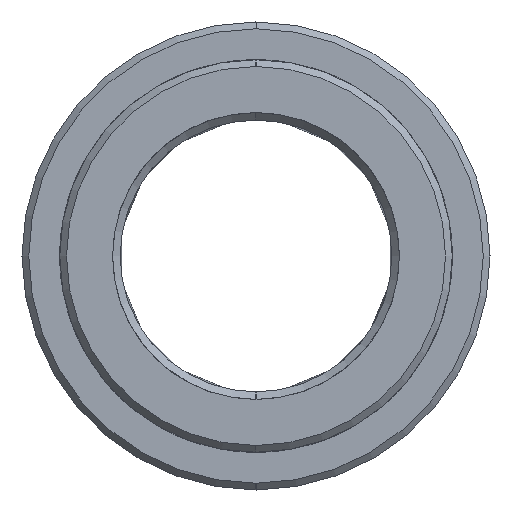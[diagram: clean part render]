
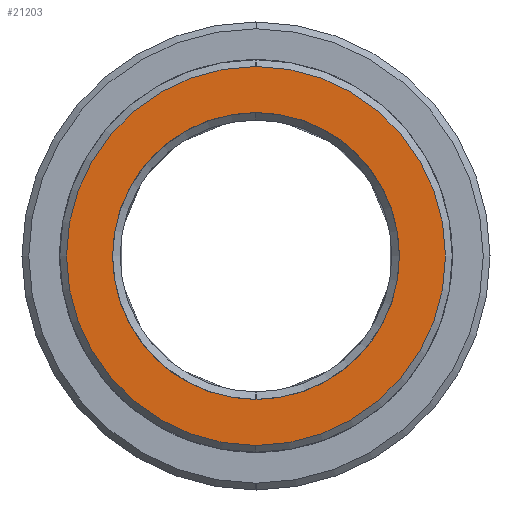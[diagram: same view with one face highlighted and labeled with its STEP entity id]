
A CAD part, left-side view. The second image highlights one B-rep face of the part: STEP entity #21203.
In plain terms, the highlighted planar face has unit normal (1, 0, 0).
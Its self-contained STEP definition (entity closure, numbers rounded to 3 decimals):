
#21120=CARTESIAN_POINT('Axis2P3D Location',(-17.,0.,0.)) ;
#21125=CARTESIAN_POINT('Axis2P3D Location',(-17.,0.,0.)) ;
#21129=CARTESIAN_POINT('Vertex',(-17.,0.,12.55)) ;
#21131=CARTESIAN_POINT('Vertex',(-17.,0.,-12.55)) ;
#21134=CARTESIAN_POINT('Axis2P3D Location',(-17.,0.,0.)) ;
#21144=CARTESIAN_POINT('Control Point',(-17.,0.,9.5)) ;
#21145=CARTESIAN_POINT('Control Point',(-17.,0.906,9.5)) ;
#21146=CARTESIAN_POINT('Control Point',(-17.,1.812,9.392)) ;
#21147=CARTESIAN_POINT('Control Point',(-17.,2.701,9.176)) ;
#21148=CARTESIAN_POINT('Control Point',(-17.,4.41,8.536)) ;
#21149=CARTESIAN_POINT('Control Point',(-17.,5.92,7.513)) ;
#21150=CARTESIAN_POINT('Control Point',(-17.,6.611,6.913)) ;
#21151=CARTESIAN_POINT('Control Point',(-17.,7.836,5.56)) ;
#21152=CARTESIAN_POINT('Control Point',(-17.,8.708,3.957)) ;
#21153=CARTESIAN_POINT('Control Point',(-17.,9.046,3.108)) ;
#21154=CARTESIAN_POINT('Control Point',(-17.,9.514,1.344)) ;
#21155=CARTESIAN_POINT('Control Point',(-17.,9.553,-0.481)) ;
#21156=CARTESIAN_POINT('Control Point',(-17.,9.463,-1.391)) ;
#21157=CARTESIAN_POINT('Control Point',(-17.,9.069,-3.173)) ;
#21158=CARTESIAN_POINT('Control Point',(-17.,8.267,-4.812)) ;
#21159=CARTESIAN_POINT('Control Point',(-17.,7.769,-5.579)) ;
#21160=CARTESIAN_POINT('Control Point',(-17.,6.601,-6.981)) ;
#21161=CARTESIAN_POINT('Control Point',(-17.,5.136,-8.069)) ;
#21162=CARTESIAN_POINT('Control Point',(-17.,4.342,-8.523)) ;
#21163=CARTESIAN_POINT('Control Point',(-17.,3.007,-9.086)) ;
#21164=CARTESIAN_POINT('Control Point',(-17.,1.596,-9.388)) ;
#21165=CARTESIAN_POINT('Control Point',(-17.,1.066,-9.463)) ;
#21166=CARTESIAN_POINT('Control Point',(-17.,0.533,-9.5)) ;
#21167=CARTESIAN_POINT('Control Point',(-17.,0.,-9.5)) ;
#21168=CARTESIAN_POINT('Vertex',(-17.,0.,9.5)) ;
#21170=CARTESIAN_POINT('Vertex',(-17.,0.,-9.5)) ;
#21174=CARTESIAN_POINT('Control Point',(-17.,0.,-9.5)) ;
#21175=CARTESIAN_POINT('Control Point',(-17.,-0.906,-9.5)) ;
#21176=CARTESIAN_POINT('Control Point',(-17.,-1.812,-9.392)) ;
#21177=CARTESIAN_POINT('Control Point',(-17.,-2.701,-9.176)) ;
#21178=CARTESIAN_POINT('Control Point',(-17.,-4.41,-8.536)) ;
#21179=CARTESIAN_POINT('Control Point',(-17.,-5.92,-7.513)) ;
#21180=CARTESIAN_POINT('Control Point',(-17.,-6.611,-6.913)) ;
#21181=CARTESIAN_POINT('Control Point',(-17.,-7.836,-5.56)) ;
#21182=CARTESIAN_POINT('Control Point',(-17.,-8.708,-3.957)) ;
#21183=CARTESIAN_POINT('Control Point',(-17.,-9.046,-3.108)) ;
#21184=CARTESIAN_POINT('Control Point',(-17.,-9.514,-1.344)) ;
#21185=CARTESIAN_POINT('Control Point',(-17.,-9.553,0.481)) ;
#21186=CARTESIAN_POINT('Control Point',(-17.,-9.463,1.391)) ;
#21187=CARTESIAN_POINT('Control Point',(-17.,-9.069,3.173)) ;
#21188=CARTESIAN_POINT('Control Point',(-17.,-8.267,4.812)) ;
#21189=CARTESIAN_POINT('Control Point',(-17.,-7.769,5.579)) ;
#21190=CARTESIAN_POINT('Control Point',(-17.,-6.601,6.981)) ;
#21191=CARTESIAN_POINT('Control Point',(-17.,-5.136,8.069)) ;
#21192=CARTESIAN_POINT('Control Point',(-17.,-4.342,8.523)) ;
#21193=CARTESIAN_POINT('Control Point',(-17.,-3.007,9.086)) ;
#21194=CARTESIAN_POINT('Control Point',(-17.,-1.596,9.388)) ;
#21195=CARTESIAN_POINT('Control Point',(-17.,-1.066,9.463)) ;
#21196=CARTESIAN_POINT('Control Point',(-17.,-0.533,9.5)) ;
#21197=CARTESIAN_POINT('Control Point',(-17.,0.,9.5)) ;
#21121=DIRECTION('Axis2P3D Direction',(1.,0.,0.)) ;
#21122=DIRECTION('Axis2P3D XDirection',(0.,1.,0.)) ;
#21126=DIRECTION('Axis2P3D Direction',(1.,0.,0.)) ;
#21135=DIRECTION('Axis2P3D Direction',(1.,0.,0.)) ;
#21123=AXIS2_PLACEMENT_3D('Plane Axis2P3D',#21120,#21121,#21122) ;
#21127=AXIS2_PLACEMENT_3D('Circle Axis2P3D',#21125,#21126,$) ;
#21136=AXIS2_PLACEMENT_3D('Circle Axis2P3D',#21134,#21135,$) ;
#21140=ORIENTED_EDGE('',*,*,#21133,.T.) ;
#21141=ORIENTED_EDGE('',*,*,#21138,.T.) ;
#21200=ORIENTED_EDGE('',*,*,#21172,.T.) ;
#21201=ORIENTED_EDGE('',*,*,#21198,.T.) ;
#21202=FACE_BOUND('',#21199,.T.) ;
#21203=ADVANCED_FACE('MANIFOLD_SOLID_BREP #11295',(#21142,#21202),#21124,.T.) ;
#21143=B_SPLINE_CURVE_WITH_KNOTS('',5,(#21144,#21145,#21146,#21147,#21148,#21149,#21150,#21151,#21152,#21153,#21154,#21155,#21156,#21157,#21158,#21159,#21160,#21161,#21162,#21163,#21164,#21165,#21166,#21167),.UNSPECIFIED.,.F.,.U.,(6,3,3,3,3,3,3,6),(0.,6.406,12.812,19.219,25.625,32.031,38.437,42.207),.UNSPECIFIED.) ;
#21173=B_SPLINE_CURVE_WITH_KNOTS('',5,(#21174,#21175,#21176,#21177,#21178,#21179,#21180,#21181,#21182,#21183,#21184,#21185,#21186,#21187,#21188,#21189,#21190,#21191,#21192,#21193,#21194,#21195,#21196,#21197),.UNSPECIFIED.,.F.,.U.,(6,3,3,3,3,3,3,6),(0.,6.406,12.812,19.219,25.625,32.031,38.437,42.207),.UNSPECIFIED.) ;
#21128=CIRCLE('generated circle',#21127,12.55) ;
#21137=CIRCLE('generated circle',#21136,12.55) ;
#21133=EDGE_CURVE('',#21130,#21132,#21128,.T.) ;
#21138=EDGE_CURVE('',#21132,#21130,#21137,.T.) ;
#21172=EDGE_CURVE('',#21169,#21171,#21143,.T.) ;
#21198=EDGE_CURVE('',#21171,#21169,#21173,.T.) ;
#21139=EDGE_LOOP('',(#21140,#21141)) ;
#21199=EDGE_LOOP('',(#21200,#21201)) ;
#21142=FACE_OUTER_BOUND('',#21139,.T.) ;
#21124=PLANE('Plane',#21123) ;
#21130=VERTEX_POINT('',#21129) ;
#21132=VERTEX_POINT('',#21131) ;
#21169=VERTEX_POINT('',#21168) ;
#21171=VERTEX_POINT('',#21170) ;
